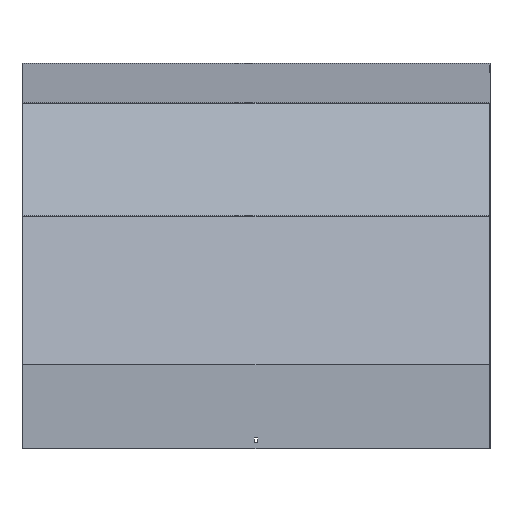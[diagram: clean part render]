
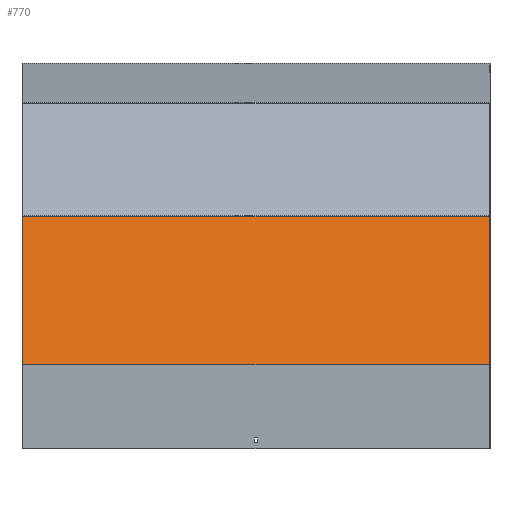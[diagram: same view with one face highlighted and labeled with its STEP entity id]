
A CAD part, top view. The second image highlights one B-rep face of the part: STEP entity #770.
In plain terms, the highlighted planar face has unit normal (0, 0.259, 0.966).
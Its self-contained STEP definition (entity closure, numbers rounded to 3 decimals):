
#39 = VECTOR ( 'NONE', #1010, 1000. ) ;
#55 = CARTESIAN_POINT ( 'NONE',  ( -451.5, -562.743, 745.376 ) ) ;
#76 = DIRECTION ( 'NONE',  ( 0., -0.259, -0.966 ) ) ;
#83 = VERTEX_POINT ( 'NONE', #694 ) ;
#95 = VECTOR ( 'NONE', #127, 1000. ) ;
#97 = VECTOR ( 'NONE', #186, 1000. ) ;
#122 = LINE ( 'NONE', #970, #97 ) ;
#124 = EDGE_LOOP ( 'NONE', ( #564, #700, #757, #361 ) ) ;
#127 = DIRECTION ( 'NONE',  ( -1., 0., 0. ) ) ;
#152 = LINE ( 'NONE', #747, #39 ) ;
#156 = EDGE_CURVE ( 'NONE', #83, #870, #296, .T. ) ;
#186 = DIRECTION ( 'NONE',  ( -1., 0., 0. ) ) ;
#213 = CARTESIAN_POINT ( 'NONE',  ( -451.5, -281.047, 669.896 ) ) ;
#228 = DIRECTION ( 'NONE',  ( 0., 0.966, -0.259 ) ) ;
#276 = DIRECTION ( 'NONE',  ( 0., -0.966, 0.259 ) ) ;
#296 = LINE ( 'NONE', #213, #647 ) ;
#361 = ORIENTED_EDGE ( 'NONE', *, *, #469, .T. ) ;
#421 = EDGE_CURVE ( 'NONE', #1005, #971, #152, .T. ) ;
#469 = EDGE_CURVE ( 'NONE', #1005, #83, #122, .T. ) ;
#564 = ORIENTED_EDGE ( 'NONE', *, *, #156, .T. ) ;
#647 = VECTOR ( 'NONE', #276, 1000. ) ;
#662 = PLANE ( 'NONE',  #1074 ) ;
#694 = CARTESIAN_POINT ( 'NONE',  ( -451.5, -275.871, 668.509 ) ) ;
#700 = ORIENTED_EDGE ( 'NONE', *, *, #703, .F. ) ;
#703 = EDGE_CURVE ( 'NONE', #971, #870, #734, .T. ) ;
#734 = LINE ( 'NONE', #741, #95 ) ;
#741 = CARTESIAN_POINT ( 'NONE',  ( 451.5, -562.743, 745.376 ) ) ;
#747 = CARTESIAN_POINT ( 'NONE',  ( 451.5, -281.047, 669.896 ) ) ;
#757 = ORIENTED_EDGE ( 'NONE', *, *, #421, .F. ) ;
#770 = ADVANCED_FACE ( 'NONE', ( #855 ), #662, .F. ) ;
#855 = FACE_OUTER_BOUND ( 'NONE', #124, .T. ) ;
#870 = VERTEX_POINT ( 'NONE', #55 ) ;
#970 = CARTESIAN_POINT ( 'NONE',  ( 451.5, -275.871, 668.509 ) ) ;
#971 = VERTEX_POINT ( 'NONE', #1082 ) ;
#1005 = VERTEX_POINT ( 'NONE', #1065 ) ;
#1010 = DIRECTION ( 'NONE',  ( 0., -0.966, 0.259 ) ) ;
#1011 = CARTESIAN_POINT ( 'NONE',  ( 451.5, -281.047, 669.896 ) ) ;
#1065 = CARTESIAN_POINT ( 'NONE',  ( 451.5, -275.871, 668.509 ) ) ;
#1074 = AXIS2_PLACEMENT_3D ( 'NONE', #1011, #76, #228 ) ;
#1082 = CARTESIAN_POINT ( 'NONE',  ( 451.5, -562.743, 745.376 ) ) ;
